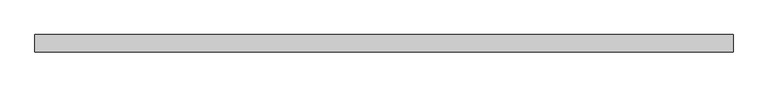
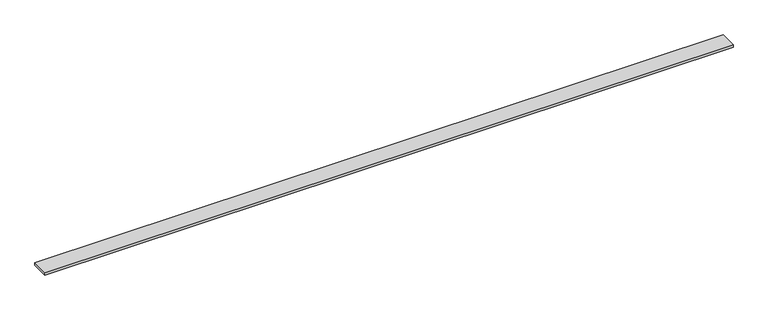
"""IFC4 building model written with IfcOpenShell, lengths in millimetres: proxy geometry, Listwa LD7010 : Listwa LD7010."""

from ifc_helpers import new_model, si_unit, origin, origin_with_axes, place, context, project, spatial, polyline, outline, extrude, source, transform, mapped, element, save


def generic_models_61bc065f(model_context):
    return source(origin(), model_context, "Body", "SweptSolid", [
        extrude(outline(polyline([(2800.0, 0.0), (2800.0, -70.0), (0.0, -70.0), (0.0, 0.0), (2800.0, 0.0)])), origin_with_axes(), (0.0, 0.0, 1.0), 10.0),
    ])


if __name__ == "__main__":
    model = new_model("IFC4")
    model_context = context("Model", 3, world=origin())
    ifc_project = project(units=[si_unit("LENGTHUNIT", "METRE", prefix="MILLI")], contexts=[model_context])
    site = spatial("IfcSite", under=ifc_project)
    building = spatial("IfcBuilding", under=site)
    placement = place(None, origin())
    generic_models_shape = generic_models_61bc065f(model_context)
    element("IfcBuildingElementProxy", 1, Name="Listwa LD7010 : Listwa LD7010", ObjectType="Listwa LD7010 : Listwa LD7010", at=placement, inside=building, context=model_context, shape_type="MappedRepresentation", body=[
        mapped(generic_models_shape, transform((0.0, 0.0, 0.0), x_axis=(1.0, 0.0, 0.0), y_axis=(0.0, 1.0, 0.0), z_axis=(0.0, 0.0, 1.0))),
    ])
    save(model, "model.ifc")
